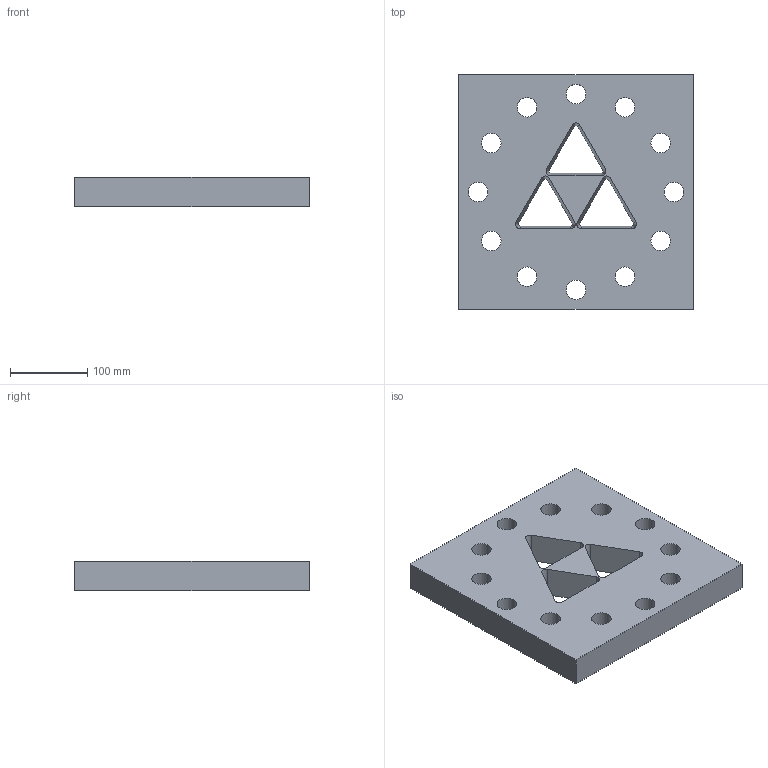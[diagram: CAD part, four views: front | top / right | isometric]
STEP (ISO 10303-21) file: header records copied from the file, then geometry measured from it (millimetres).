
FILE_DESCRIPTION(('STEP AP214'),'1');
FILE_NAME('Land and Taper.stp','2025-02-25T01:06:00',(' '),(' '),'Spatial InterOp 3D',' ',' ');
FILE_SCHEMA(('AUTOMOTIVE_DESIGN { 1 0 10303 214 1 1 1 1 }'));
Length unit declared in the file: metre
Products named in the file (3): 1740444207; 1740444121; 1
Bounding box: 304.8 x 304.8 x 38.1 mm (x, y, z)
Volume: 2993444.4 mm3; surface area: 345324.1 mm2
Topology: 1 solids, 2 shells, 37 faces, 148 edges, 114 vertices
Faces by surface type: plane 16, cylinder 12, cone 9
Full cylindrical faces by diameter (mm): 25.4 x12
Entity records: 2102 total; most frequent: DIRECTION 291, CARTESIAN_POINT 278, ORIENTED_EDGE 214, EDGE_CURVE 124, AXIS2_PLACEMENT_3D 115, VERTEX_POINT 102, EDGE_LOOP 94, CIRCLE 75
